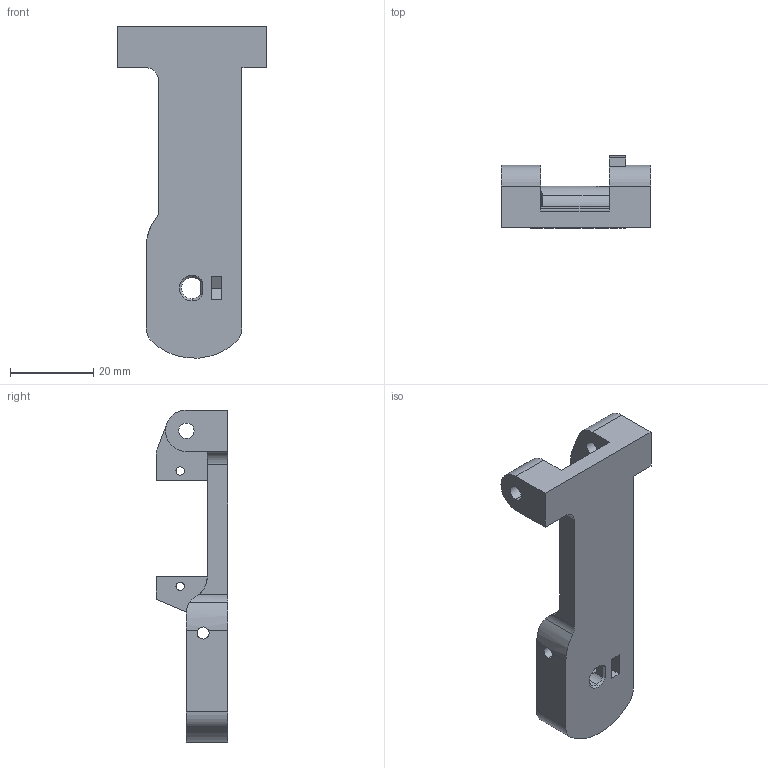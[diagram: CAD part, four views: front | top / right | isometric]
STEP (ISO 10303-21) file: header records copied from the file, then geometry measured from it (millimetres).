
FILE_DESCRIPTION (( 'STEP AP203' ), '1' );
FILE_NAME ('VERT ARM REMAKE for 1 piece A.STEP', '2018-02-21T17:39:43', ( '' ), ( '' ), 'SwSTEP 2.0', 'SolidWorks 2015', '' );
FILE_SCHEMA (( 'CONFIG_CONTROL_DESIGN' ));
Length unit declared in the file: inch
Products named in the file (1): VERT ARM REMAKE for 1 piece A
Bounding box: 36 x 17.3 x 79.8 mm (x, y, z)
Volume: 14369.1 mm3; surface area: 7020.5 mm2
Topology: 1 solids, 1 shells, 68 faces, 193 edges, 127 vertices
Faces by surface type: plane 33, cylinder 32, cone 3
Entity records: 2380 total; most frequent: CARTESIAN_POINT 456, DIRECTION 387, ORIENTED_EDGE 386, EDGE_CURVE 193, AXIS2_PLACEMENT_3D 136, VERTEX_POINT 127, LINE 115, VECTOR 115
